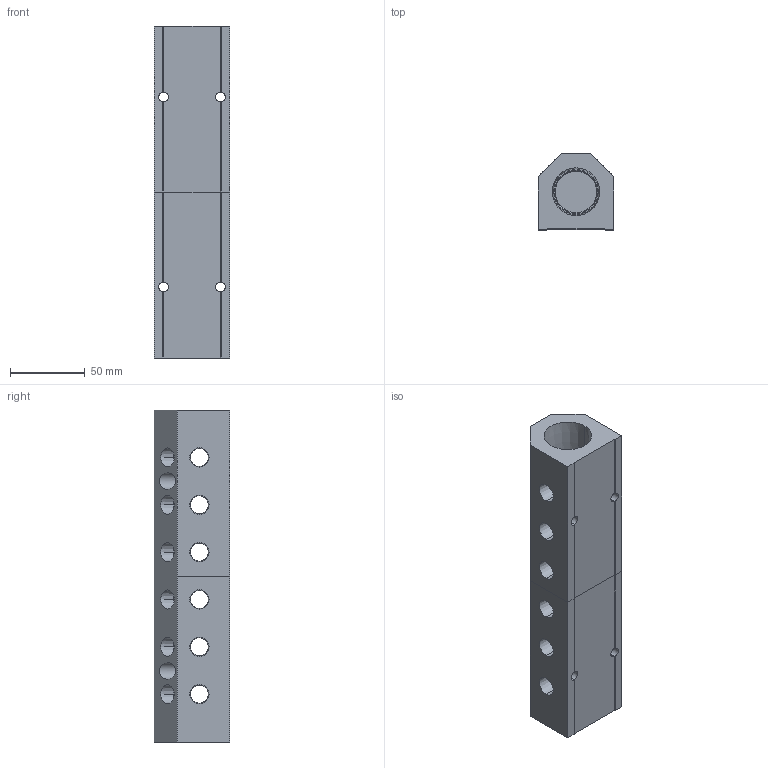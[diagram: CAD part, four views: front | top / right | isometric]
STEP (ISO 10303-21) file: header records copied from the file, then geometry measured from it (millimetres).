
FILE_DESCRIPTION (( 'STEP AP214' ), '1' );
FILE_NAME ('ALM6ABCDE-N4N16-222RB.STEP', '2023-11-02T06:12:18', ( '' ), ( '' ), 'SwSTEP 2.0', 'SolidWorks 2020', '' );
FILE_SCHEMA (( 'AUTOMOTIVE_DESIGN' ));
Length unit declared in the file: millimetre
Products named in the file (1): ALM6ABCDE-N4N16-222RB
Bounding box: 50.8 x 50.8 x 222 mm (x, y, z)
Volume: 321670.4 mm3; surface area: 80620.6 mm2
Topology: 2 solids, 2 shells, 433 faces, 1181 edges, 782 vertices
Faces by surface type: plane 265, bspline 76, cone 68, cylinder 24
Entity records: 25022 total; most frequent: CARTESIAN_POINT 10421, ORIENTED_EDGE 2362, DIRECTION 1753, EDGE_CURVE 1181, LINE 821, VECTOR 821, VERTEX_POINT 782, EDGE_LOOP 531
